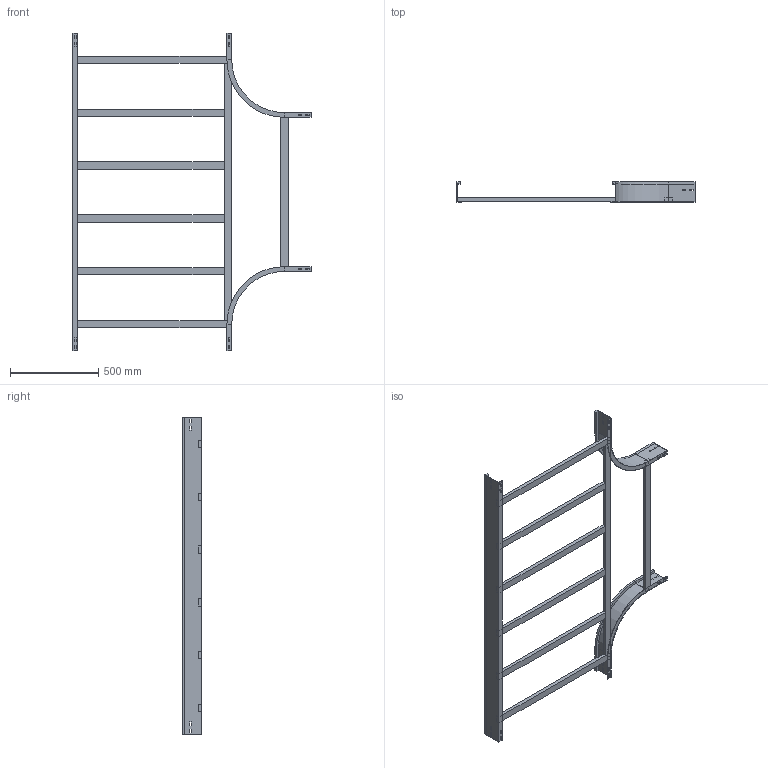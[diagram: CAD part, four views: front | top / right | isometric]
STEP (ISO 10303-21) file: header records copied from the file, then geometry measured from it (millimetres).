
FILE_DESCRIPTION (( 'STEP AP214' ), '1' );
FILE_NAME ('A2_15B3J900.step', '2025-02-21T15:51:48', ( '' ), ( '' ), 'SwSTEP 2.0', 'SolidWorks 2023', '' );
FILE_SCHEMA (( 'AUTOMOTIVE_DESIGN' ));
Length unit declared in the file: millimetre
Products named in the file (6): TRAVERSINO_INTERMEDIO_R300+900; TRAVERSINO_900; A2_LONGH.RETT_H112.5_R300+900; A2_LONGH.INTERNO 90°_H112.5_R300; A2_TRAVERSINO_LONG._R300+900; A2_15B3J900
Assembly tree (11 placements, depth 2):
  A2_15B3J900
    A2_LONGH.INTERNO 90°_H112.5_R300  x2
    A2_LONGH.RETT_H112.5_R300+900
    TRAVERSINO_900  x3
    A2_TRAVERSINO_LONG._R300+900
    TRAVERSINO_INTERMEDIO_R300+900  x4
Bounding box: 1350 x 112.5 x 1800 mm (x, y, z)
Volume: 7693856.5 mm3; surface area: 1971336.7 mm2
Topology: 11 solids, 11 shells, 206 faces, 520 edges, 336 vertices
Faces by surface type: plane 198, cylinder 8
Entity records: 3831 total; most frequent: CARTESIAN_POINT 640, ORIENTED_EDGE 616, DIRECTION 580, EDGE_CURVE 308, LINE 300, VECTOR 300, VERTEX_POINT 200, EDGE_LOOP 150
